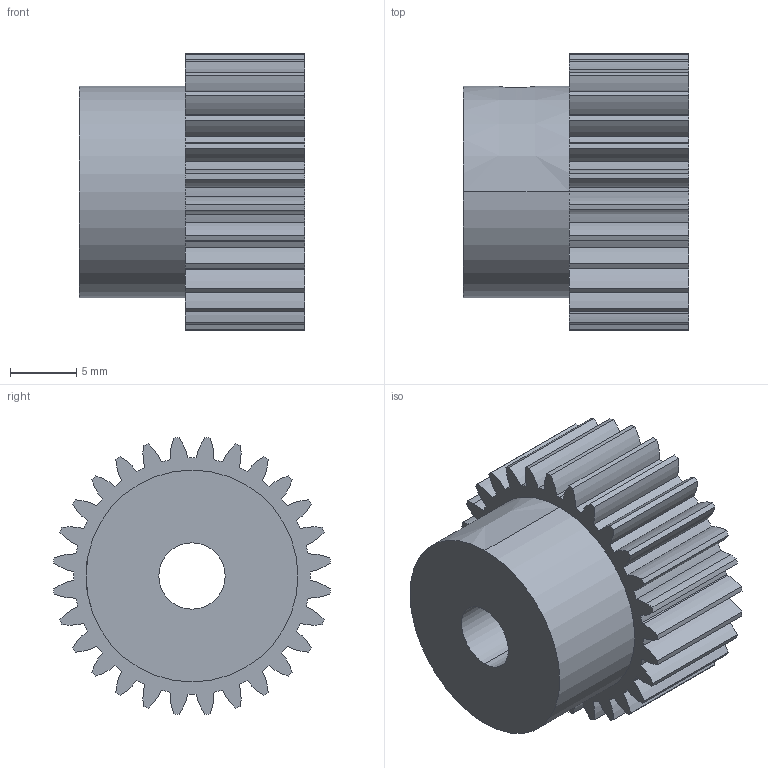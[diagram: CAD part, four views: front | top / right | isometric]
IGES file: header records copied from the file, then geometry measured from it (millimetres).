
Start section: 3D InterOp IGES (v. 2020 1.0.1), Spatial Corp. Copyright (c) 1999-2017.
Global section: file name: ssp07_w9_t28_b.igs; native system: Spatial Corp.; preprocessor: 3D InterOp ACIS/IGES; author: TraceParts; organization: TraceParts S.A.; date: 20220624.032153; units: millimetre
Bounding box: 17 x 20.91 x 20.91 mm (x, y, z)
Surface area: 2339.6 mm2 (no closed solid volume)
Topology: 0 solids, 0 shells, 139 faces, 804 edges, 804 vertices
Faces by surface type: revolution 128, extrusion 11
